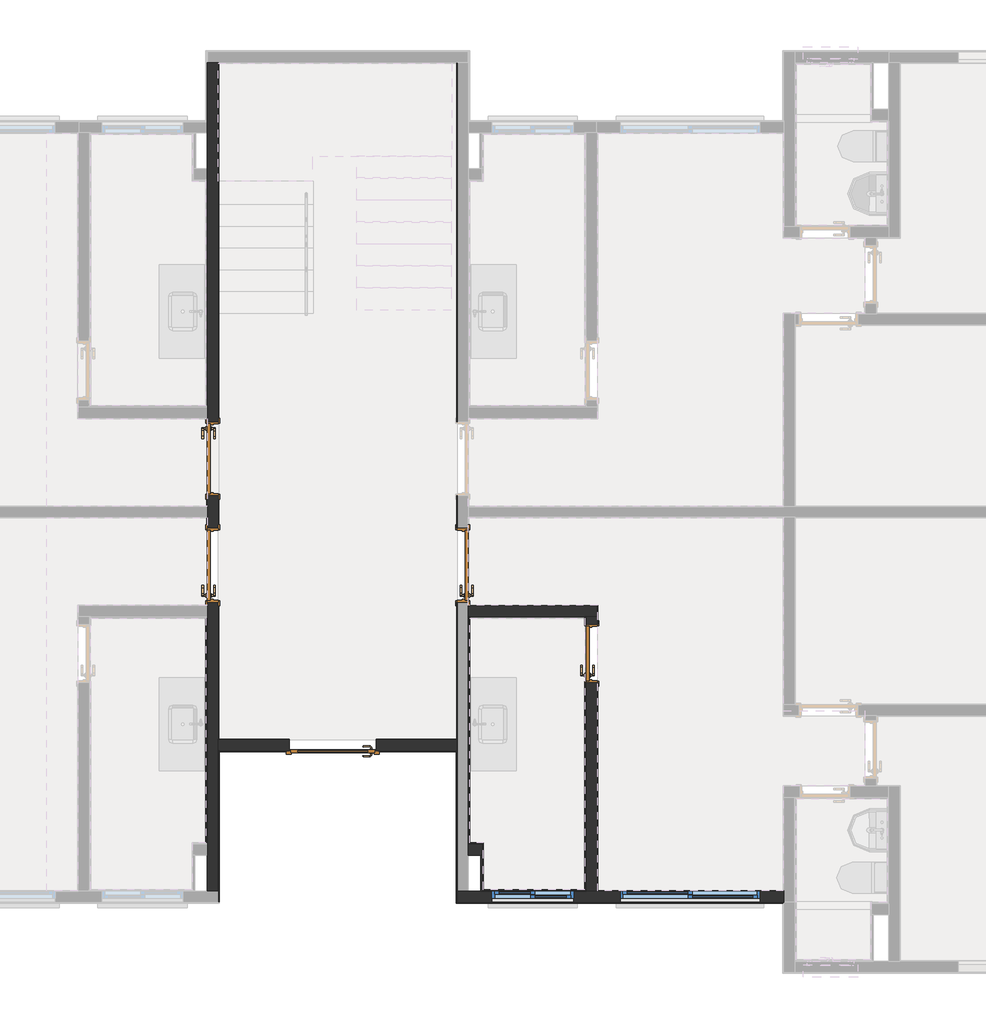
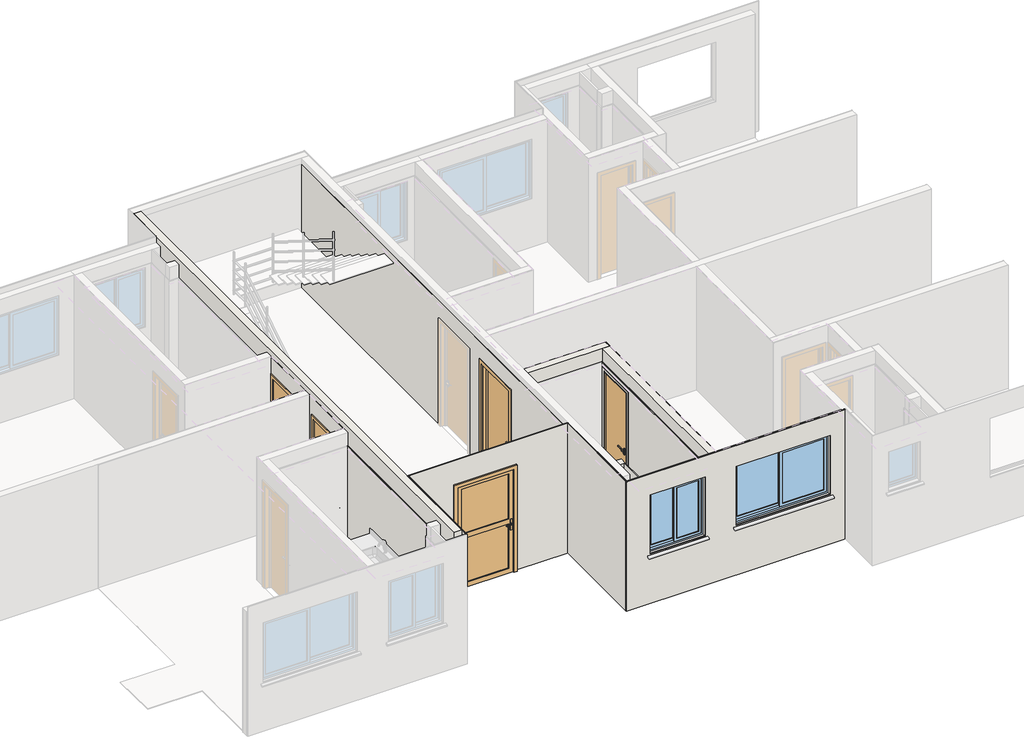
# One storey, part 3 of 9: 25 walls, 5 doors, 2 windows.
"""IFC4 building model written with IfcOpenShell, lengths in millimetres."""

from ifc_helpers import new_model, si_unit, frame, origin, place, context, project, spatial, polyline, outline, extrude, faceted_brep, transform, mapped, element, save
from components import porta_de_entrada_torre_110x210_d7ea5157, porta_de_madeira_interna_70_x_210_porta_de_madeira_interna_d0067c94, porta_de_madeira_interna_90x210_porta_de_madeira_interna_90_f8e7363e, porta_de_madeira_interna_90x210_porta_de_madeira_interna_90_f331fdd0, window_105x120_428ac20c, window_180x120_e659ab7e

model = new_model("IFC4")

# Units and contexts
model_context = context("Model", 3, world=origin())
ifc_project = project(units=[si_unit("LENGTHUNIT", "METRE", prefix="MILLI")], contexts=[model_context])

# Site, building, storey
site = spatial("IfcSite", under=ifc_project)
building = spatial("IfcBuilding", under=site)
storey = spatial("IfcBuildingStorey", under=building, Name="2º Pavimento", Elevation=2630.0)

# Doors
placement = place(None, origin())
porta_de_entrada_torre_110x210_shape = porta_de_entrada_torre_110x210_d7ea5157(model_context)
element("IfcDoor", 1, ObjectType="Porta de Entrada Torre : 110x210", at=placement, inside=storey, context=model_context, shape_type="MappedRepresentation", body=[
    mapped(porta_de_entrada_torre_110x210_shape, transform((10345.9990083, 3322.00443, 2630.0), x_axis=(-1.0, 0.0, 0.0), y_axis=(0.0, -1.0, 0.0), z_axis=(0.0, 0.0, 1.0))),
])
porta_de_madeira_interna_70_x_210_porta_de_madeira_interna_shape = porta_de_madeira_interna_70_x_210_porta_de_madeira_interna_d0067c94(model_context)
element("IfcDoor", 2, ObjectType="Porta de Madeira Interna 70 x 210 : Porta de Madeira Interna 70 x 210", at=placement, inside=storey, context=model_context, shape_type="MappedRepresentation", body=[
    mapped(porta_de_madeira_interna_70_x_210_porta_de_madeira_interna_shape, transform((13673.8210213, 4578.6603139, 2630.0), x_axis=(0.0, 1.0, 0.0), y_axis=(-1.0, 0.0, 0.0), z_axis=(0.0, 0.0, 1.0))),
])
porta_de_madeira_interna_90x210_porta_de_madeira_interna_90_shape = porta_de_madeira_interna_90x210_porta_de_madeira_interna_90_f8e7363e(model_context)
element("IfcDoor", 3, ObjectType="Porta de Madeira Interna 90x210 : Porta de Madeira Interna 90 x 210", at=placement, inside=storey, context=model_context, shape_type="MappedRepresentation", body=[
    mapped(porta_de_madeira_interna_90x210_porta_de_madeira_interna_90_shape, transform((8796.8213008, 7085.0103139, 2630.0), x_axis=(0.0, -1.0, 0.0), y_axis=(1.0, 0.0, 0.0), z_axis=(0.0, 0.0, 1.0))),
])
element("IfcDoor", 4, ObjectType="Porta de Madeira Interna 90x210 : Porta de Madeira Interna 90 x 210", at=placement, inside=storey, context=model_context, shape_type="MappedRepresentation", body=[
    mapped(porta_de_madeira_interna_90x210_porta_de_madeira_interna_90_shape, transform((12023.1734066, 5715.0103139, 2630.0), x_axis=(0.0, 1.0, 0.0), y_axis=(-1.0, 0.0, 0.0), z_axis=(0.0, 0.0, 1.0))),
])
porta_de_madeira_interna_90x210_porta_de_madeira_interna_90_2_shape = porta_de_madeira_interna_90x210_porta_de_madeira_interna_90_f331fdd0(model_context)
element("IfcDoor", 5, ObjectType="Porta de Madeira Interna 90x210 : Porta de Madeira Interna 90 x 210", at=placement, inside=storey, context=model_context, shape_type="MappedRepresentation", body=[
    mapped(porta_de_madeira_interna_90x210_porta_de_madeira_interna_90_2_shape, transform((8796.8213008, 5715.0103139, 2630.0), x_axis=(0.0, 1.0, 0.0), y_axis=(-1.0, 0.0, 0.0), z_axis=(0.0, 0.0, 1.0))),
])

# Walls
element("IfcWall", 6, ObjectType="Alvenaria Estrutural", at=placement, inside=storey, context=model_context, shape_type="Brep", body=[
    faceted_brep([(8869.9953936, 3330.00443, 5140.0), (8869.9953936, 3330.00443, 2630.0), (8886.0600094, 3330.00443, 2630.0), (9745.9990083, 3330.00443, 2630.0), (9785.9990083, 3330.00443, 2630.0), (9785.9990083, 3330.00443, 4740.0), (10905.9990083, 3330.00443, 4740.0), (10905.9990083, 3330.00443, 2630.0), (10945.9990083, 3330.00443, 2630.0), (11933.9956991, 3330.00443, 2630.0), (11944.9956991, 3330.00443, 2630.0), (11944.9956991, 3330.00443, 5140.0), (8869.9953936, 3470.00443, 2630.0), (8869.9953936, 3470.00443, 5140.0), (8875.9991022, 3470.00443, 5140.0), (11943.9984066, 3470.00443, 5140.0), (11944.9956991, 3470.00443, 5140.0), (11944.9956991, 3470.00443, 2630.0), (11943.9984066, 3470.00443, 2630.0), (10905.9990083, 3470.00443, 2630.0), (10905.9990083, 3470.00443, 4740.0), (9785.9990083, 3470.00443, 4740.0), (9785.9990083, 3470.00443, 2630.0), (8875.9991022, 3470.00443, 2630.0)], [[[0, 1, 2, 3, 4, 5, 6, 7, 8, 9, 10, 11]], [[12, 13, 14, 15, 16, 17, 18, 19, 20, 21, 22, 23]], [[2, 1, 12, 23, 22, 4, 3]], [[1, 0, 13, 12]], [[0, 11, 16, 15, 14, 13]], [[6, 5, 21, 20]], [[7, 6, 20, 19]], [[5, 4, 22, 21]], [[8, 7, 19, 18, 17, 10, 9]], [[11, 10, 17, 16]]]),
])
element("IfcWall", 7, ObjectType="Alvenaria Estrutural", at=placement, inside=storey, context=model_context, shape_type="Brep", body=[
    faceted_brep([(8729.9963008, 12179.9995833, 2630.0), (8729.9963008, 12179.9995833, 2640.0), (8729.9963008, 12179.9995833, 5150.0), (8729.9963008, 12179.9995833, 5260.0), (8869.9963008, 12179.9995833, 5260.0), (8869.9963008, 12179.9995833, 5150.0), (8869.9963008, 12179.9995833, 5140.0), (8869.9963008, 12179.9995833, 2640.0), (8869.9963008, 12179.9995833, 2630.0), (8729.9963008, 11436.0223004, 2630.0), (8869.9963008, 7560.0103139, 2630.0), (8729.9963008, 7560.0103139, 2630.0), (8729.9963008, 7606.3603139, 2630.0), (8729.9963008, 7746.3603139, 2630.0), (8729.9963008, 7766.3603139, 2630.0), (8729.9963008, 10655.0073729, 2630.0), (8729.9963008, 10675.0073729, 2630.0), (8729.9963008, 10815.0073729, 2630.0), (8729.9963008, 11420.0223004, 2630.0), (8729.9963008, 7560.0103139, 2640.0), (8869.9963008, 7560.0103139, 2640.0), (8869.9963008, 7560.0103139, 4755.0), (8729.9963008, 7560.0103139, 4755.0), (8729.9963008, 6610.0103139, 2630.0), (8729.9963008, 6610.0103139, 2640.0), (8729.9963008, 6610.0103139, 4755.0), (8869.9963008, 6610.0103139, 4755.0), (8869.9963008, 6610.0103139, 2640.0), (8869.9963008, 6610.0103139, 2630.0), (8729.9963008, 6476.0103139, 2630.0), (8869.9963008, 6190.0103139, 2630.0), (8729.9963008, 6190.0103139, 2630.0), (8729.9963008, 6324.0103139, 2630.0), (8729.9963008, 6330.0103139, 2630.0), (8729.9963008, 6470.0103139, 2630.0), (8729.9963008, 6190.0103139, 2640.0), (8869.9963008, 6190.0103139, 2640.0), (8869.9963008, 6190.0103139, 4755.0), (8729.9963008, 6190.0103139, 4755.0), (8729.9963008, 5240.0103139, 2630.0), (8729.9963008, 5240.0103139, 2640.0), (8729.9963008, 5240.0103139, 4755.0), (8869.9963008, 5240.0103139, 4755.0), (8869.9963008, 5240.0103139, 2640.0), (8869.9963008, 5240.0103139, 2630.0), (8729.9963008, 5193.6603139, 2630.0), (8869.9963008, 3474.9995833, 2630.0), (8869.9963008, 3470.00443, 2630.0), (8869.9963008, 3330.00443, 2630.0), (8869.9963008, 1519.9983274, 2630.0), (8729.9963008, 1519.9983274, 2630.0), (8729.9963008, 1985.0132549, 2630.0), (8729.9963008, 2125.0132549, 2630.0), (8729.9963008, 2145.0132549, 2630.0), (8729.9963008, 5033.6603139, 2630.0), (8729.9963008, 5053.6603139, 2630.0), (8729.9963008, 1519.9983274, 2640.0), (8869.9963008, 1519.9983274, 2640.0), (8869.9963008, 1519.9983274, 5150.0), (8869.9963008, 1519.9983274, 5260.0), (8729.9963008, 1519.9983274, 5260.0), (8729.9963008, 1519.9983274, 5150.0), (8729.9963008, 11420.0223004, 5260.0), (8729.9963008, 11436.0223004, 5260.0)], [[[0, 1, 2, 3, 4, 5, 6, 7, 8]], [[9, 0, 8, 10, 11, 12, 13, 14, 15, 16, 17, 18]], [[19, 11, 10, 20, 21, 22]], [[23, 24, 25, 26, 27, 28]], [[29, 23, 28, 30, 31, 32, 33, 34]], [[35, 31, 30, 36, 37, 38]], [[39, 40, 41, 42, 43, 44]], [[45, 39, 44, 46, 47, 48, 49, 50, 51, 52, 53, 54, 55]], [[56, 50, 49, 57, 58, 59, 60, 61]], [[57, 49, 48, 47, 46, 44, 43, 42, 37, 36, 30, 28, 27, 26, 21, 20, 10, 8, 7, 6, 5, 4, 59, 58]], [[25, 22, 21, 26]], [[41, 38, 37, 42]], [[62, 60, 59, 4, 3, 63]], [[40, 39, 45, 55, 54, 53, 52, 51, 50, 56, 61, 60, 62, 63, 3, 2, 1, 0, 9, 18, 17, 16, 15, 14, 13, 12, 11, 19, 22, 25, 24, 23, 29, 34, 33, 32, 31, 35, 38, 41]]]),
])
element("IfcWall", 8, ObjectType="Alvenaria Estrutural", at=placement, inside=storey, context=model_context, shape_type="Brep", body=[
    faceted_brep([(16149.9956991, 1519.9983274, 2640.0), (16143.9956991, 1519.9983274, 2640.0), (11949.9956991, 1519.9983274, 2640.0), (11949.9956991, 1519.9983274, 5150.0), (16149.9956991, 1519.9983274, 5150.0), (16149.9956991, 1519.9983274, 5140.0), (12394.9954974, 1519.9983274, 4830.0), (12394.9954974, 1519.9983274, 3630.0), (13444.9954974, 1519.9983274, 3630.0), (13444.9954974, 1519.9983274, 4830.0), (14044.9954574, 1519.9983274, 4830.0), (14044.9954574, 1519.9983274, 3630.0), (15844.9954574, 1519.9983274, 3630.0), (15844.9954574, 1519.9983274, 4830.0), (11949.9956991, 1379.9983274, 2640.0), (16133.9960602, 1379.9983274, 2640.0), (16149.9956991, 1379.9983274, 2640.0), (16149.9956991, 1379.9983274, 5150.0), (11949.9956991, 1379.9983274, 5150.0), (12394.9954974, 1379.9983274, 3630.0), (12394.9954974, 1379.9983274, 4830.0), (13444.9954974, 1379.9983274, 4830.0), (13444.9954974, 1379.9983274, 3630.0), (13494.9954974, 1379.9983274, 3630.0), (13494.9954974, 1379.9983274, 3581.3083694), (12344.9954974, 1379.9983274, 3581.3083694), (12344.9954974, 1379.9983274, 3630.0), (15894.9954574, 1379.9983274, 3630.0), (15894.9954574, 1379.9983274, 3581.3083694), (13994.9954574, 1379.9983274, 3581.3083694), (13994.9954574, 1379.9983274, 3630.0), (14044.9954574, 1379.9983274, 3630.0), (14044.9954574, 1379.9983274, 4830.0), (15844.9954574, 1379.9983274, 4830.0), (15844.9954574, 1379.9983274, 3630.0), (16149.9956991, 1449.9983274, 2640.0), (12344.9954974, 1477.4983274, 3602.0326341), (12344.9954974, 1477.4983274, 3630.0), (13494.9954974, 1477.4983274, 3630.0), (13494.9954974, 1477.4983274, 3602.0326341), (13444.9954974, 1477.4983274, 3630.0), (12394.9954974, 1477.4983274, 3630.0), (15894.9954574, 1477.4983274, 3630.0), (15894.9954574, 1477.4983274, 3602.0326341), (13994.9954574, 1477.4983274, 3602.0326341), (13994.9954574, 1477.4983274, 3630.0), (15844.9954574, 1477.4983274, 3630.0), (14044.9954574, 1477.4983274, 3630.0)], [[[0, 1, 2, 3, 4, 5], [6, 7, 8, 9], [10, 11, 12, 13]], [[14, 15, 16, 17, 18], [19, 20, 21, 22, 23, 24, 25, 26], [27, 28, 29, 30, 31, 32, 33, 34]], [[1, 0, 35, 16, 15, 14, 2]], [[3, 2, 14, 18]], [[4, 3, 18, 17]], [[5, 4, 17, 16, 35, 0]], [[26, 25, 36, 37]], [[24, 23, 38, 39]], [[37, 36, 39, 38, 40, 41]], [[19, 26, 37, 41]], [[25, 24, 39, 36]], [[7, 6, 20, 19, 41]], [[6, 9, 21, 20]], [[9, 8, 40, 22, 21]], [[8, 7, 41, 40]], [[28, 27, 42, 43]], [[30, 29, 44, 45]], [[43, 42, 46, 47, 45, 44]], [[27, 34, 46, 42]], [[29, 28, 43, 44]], [[11, 10, 32, 31, 47]], [[10, 13, 33, 32]], [[13, 12, 46, 34, 33]], [[12, 11, 47, 46]], [[31, 30, 45, 47]], [[23, 22, 40, 38]]]),
])
element("IfcWall", 9, ObjectType="Alvenaria Estrutural", at=placement, inside=storey, context=model_context, shape_type="Brep", body=[
    faceted_brep([(12089.9984066, 1985.0132549, 2630.0), (12249.9983974, 1985.0132549, 2630.0), (12272.9983974, 1985.0132549, 2630.0), (12272.9983974, 1985.0132549, 5140.0), (12249.9983974, 1985.0132549, 5140.0), (12089.9984066, 1985.0132549, 5140.0), (12089.9984066, 2125.0132549, 2630.0), (12089.9984066, 2125.0132549, 4880.0), (12089.9984066, 2125.0132549, 5140.0), (12272.9983974, 2125.0132549, 5140.0), (12272.9983974, 2125.0132549, 2630.0), (12109.9984066, 2125.0132549, 2630.0)], [[[0, 1, 2, 3, 4, 5]], [[6, 7, 8, 9, 10, 11]], [[1, 0, 6, 11, 10, 2]], [[4, 3, 9, 8, 5]], [[3, 2, 10, 9]], [[0, 5, 8, 7, 6]]]),
])
element("IfcWall", 10, ObjectType="Alvenaria Estrutural", at=placement, inside=storey, context=model_context, shape_type="Brep", body=[
    faceted_brep([(12089.9984066, 5053.6603139, 2630.0), (12109.9984066, 5053.6603139, 2630.0), (13586.992975, 5053.6603139, 2630.0), (13606.9960213, 5053.6603139, 2630.0), (13746.9960213, 5053.6603139, 2630.0), (13746.9960213, 5053.6603139, 5140.0), (13606.9960213, 5053.6603139, 5140.0), (12089.9984066, 5053.6603139, 5140.0), (12089.9984066, 5053.6603139, 4880.0), (12089.9984066, 5193.6603139, 2630.0), (12089.9984066, 5193.6603139, 5140.0), (12095.9984066, 5193.6603139, 5140.0), (13746.9960213, 5193.6603139, 5140.0), (13746.9960213, 5193.6603139, 2630.0), (12095.9984066, 5193.6603139, 2630.0)], [[[0, 1, 2, 3, 4, 5, 6, 7, 8]], [[9, 10, 11, 12, 13, 14]], [[1, 0, 9, 14, 13, 4, 3, 2]], [[6, 5, 12, 11, 10, 7]], [[5, 4, 13, 12]], [[8, 7, 10, 9, 0]]]),
])
element("IfcWall", 11, ObjectType="Alvenaria Estrutural", at=placement, inside=storey, context=model_context, shape_type="Brep", body=[
    faceted_brep([(13746.9960213, 1519.9983274, 2630.0), (13746.9960213, 1519.9983274, 2640.0), (13746.9960213, 1519.9983274, 5140.0), (13606.9960213, 1519.9983274, 5140.0), (13606.9960213, 1519.9983274, 4880.0), (13606.9960213, 1519.9983274, 2640.0), (13606.9960213, 1519.9983274, 2630.0), (13746.9960213, 1525.9983274, 2630.0), (13606.9960213, 1539.9983274, 2630.0), (13606.9960213, 4203.6603139, 2630.0), (13746.9960213, 4203.6603139, 2630.0), (13746.9960213, 4203.6603139, 2640.0), (13606.9960213, 4203.6603139, 2640.0), (13606.9960213, 4203.6603139, 4755.0), (13746.9960213, 4203.6603139, 4755.0), (13746.9960213, 4953.6603139, 2630.0), (13746.9960213, 4953.6603139, 2640.0), (13746.9960213, 4953.6603139, 4755.0), (13606.9960213, 4953.6603139, 4755.0), (13606.9960213, 4953.6603139, 2640.0), (13606.9960213, 4953.6603139, 2630.0), (13746.9960213, 5053.6603139, 2630.0), (13606.9960213, 5033.6603139, 2630.0), (13606.9960213, 5053.6603139, 2630.0), (13746.9960213, 5053.6603139, 2640.0), (13606.9960213, 5053.6603139, 2640.0), (13606.9960213, 5053.6603139, 4880.0), (13606.9960213, 5053.6603139, 5140.0), (13746.9960213, 5053.6603139, 5140.0), (13746.9960213, 1525.9983274, 5140.0)], [[[0, 1, 2, 3, 4, 5, 6]], [[7, 0, 6, 8, 9, 10]], [[11, 10, 9, 12, 13, 14]], [[15, 16, 17, 18, 19, 20]], [[21, 15, 20, 22, 23]], [[24, 21, 23, 25, 26, 27, 28]], [[25, 23, 22, 20, 19, 18, 13, 12, 9, 8, 6, 5, 4, 3, 27, 26]], [[29, 28, 27, 3, 2]], [[17, 14, 13, 18]], [[16, 15, 21, 24, 28, 29, 2, 1, 0, 7, 10, 11, 14, 17]]]),
])
element("IfcWall", 12, ObjectType="Azulejo", at=placement, inside=storey, context=model_context, shape_type="SweptSolid", body=[
    extrude(outline(polyline([(8709.9963008, 2125.0132549), (8709.9963008, 5053.6603139), (8719.9963008, 5053.6603139), (8719.9963008, 2125.0132549), (8709.9963008, 2125.0132549)])), frame((0.0, 0.0, 2630.0), z_axis=(0.0, 0.0, 1.0), x_axis=(1.0, 0.0, 0.0)), (0.0, 0.0, 1.0), 2250.0),
    extrude(outline(polyline([(8729.9963008, 5053.6603139), (8729.9963008, 2125.0132549), (8719.9963008, 2125.0132549), (8719.9963008, 5053.6603139), (8729.9963008, 5053.6603139)])), frame((0.0, 0.0, 2630.0), z_axis=(0.0, 0.0, 1.0), x_axis=(1.0, 0.0, 0.0)), (0.0, 0.0, 1.0), 2250.0),
])
element("IfcWall", 13, ObjectType="Azulejo", at=placement, inside=storey, context=model_context, shape_type="Brep", body=[
    faceted_brep([(13586.992975, 1519.9983274, 2630.0), (13586.992975, 4203.6603139, 2630.0), (13596.992975, 4203.6603139, 2630.0), (13596.992975, 1519.9983274, 2630.0), (13596.992975, 1519.9983274, 2640.0), (13596.992975, 1519.9983274, 4880.0), (13586.992975, 1519.9983274, 4880.0), (13586.992975, 1519.9983274, 2640.0), (13586.992975, 5053.6603139, 2630.0), (13586.992975, 5053.6603139, 2640.0), (13586.992975, 5053.6603139, 4880.0), (13596.992975, 5053.6603139, 4880.0), (13596.992975, 5053.6603139, 2640.0), (13596.992975, 5053.6603139, 2630.0), (13596.992975, 4953.6603139, 2630.0), (13586.992975, 4953.6603139, 2630.0), (13586.992975, 4953.6603139, 2640.0), (13596.992975, 4953.6603139, 2640.0), (13596.992975, 4953.6603139, 4755.0), (13586.992975, 4953.6603139, 4755.0), (13586.992975, 4203.6603139, 2640.0), (13586.992975, 4203.6603139, 4755.0), (13596.992975, 4203.6603139, 4755.0), (13596.992975, 4203.6603139, 2640.0)], [[[0, 1, 2, 3]], [[0, 3, 4, 5, 6, 7]], [[8, 9, 10, 11, 12, 13]], [[14, 15, 8, 13]], [[16, 15, 14, 17, 18, 19]], [[2, 1, 20, 21, 22, 23]], [[3, 2, 23, 22, 18, 17, 14, 13, 12, 11, 5, 4]], [[10, 6, 5, 11]], [[21, 19, 18, 22]], [[1, 0, 7, 6, 10, 9, 8, 15, 16, 19, 21, 20]]]),
    faceted_brep([(13596.992975, 4203.6603139, 2630.0), (13596.992975, 1519.9983274, 2630.0), (13596.992975, 1519.9983274, 2640.0), (13596.992975, 1519.9983274, 4880.0), (13596.992975, 5053.6603139, 4880.0), (13596.992975, 5053.6603139, 2640.0), (13596.992975, 5053.6603139, 2630.0), (13596.992975, 4953.6603139, 2630.0), (13596.992975, 4953.6603139, 2640.0), (13596.992975, 4953.6603139, 4755.0), (13596.992975, 4203.6603139, 4755.0), (13596.992975, 4203.6603139, 2640.0), (13606.992975, 4203.6603139, 2630.0), (13606.992975, 1519.9983274, 2630.0), (13606.992975, 1519.9983274, 2640.0), (13606.992975, 1519.9983274, 4880.0), (13606.992975, 5053.6603139, 4880.0), (13606.992975, 5053.6603139, 2640.0), (13606.992975, 5053.6603139, 2630.0), (13606.992975, 4953.6603139, 2630.0), (13606.992975, 4953.6603139, 2640.0), (13606.992975, 4953.6603139, 4755.0), (13606.992975, 4203.6603139, 4755.0), (13606.992975, 4203.6603139, 2640.0)], [[[0, 1, 2, 3, 4, 5, 6, 7, 8, 9, 10, 11]], [[1, 0, 12, 13]], [[2, 1, 13, 14, 15, 3]], [[6, 5, 4, 16, 17, 18]], [[7, 6, 18, 19]], [[8, 7, 19, 20, 21, 9]], [[0, 11, 10, 22, 23, 12]], [[14, 13, 12, 23, 22, 21, 20, 19, 18, 17, 16, 15]], [[4, 3, 15, 16]], [[10, 9, 21, 22]]]),
])
element("IfcWall", 14, ObjectType="Azulejo", at=placement, inside=storey, context=model_context, shape_type="SweptSolid", body=[
    extrude(outline(polyline([(12109.9984066, 5053.6603139), (12109.9984066, 2125.0132549), (12099.9984066, 2125.0132549), (12099.9984066, 5053.6603139), (12109.9984066, 5053.6603139)])), frame((0.0, 0.0, 2630.0), z_axis=(0.0, 0.0, 1.0), x_axis=(1.0, 0.0, 0.0)), (0.0, 0.0, 1.0), 2250.0),
    extrude(outline(polyline([(12089.9984066, 2125.0132549), (12089.9984066, 5053.6603139), (12099.9984066, 5053.6603139), (12099.9984066, 2125.0132549), (12089.9984066, 2125.0132549)])), frame((0.0, 0.0, 2630.0), z_axis=(0.0, 0.0, 1.0), x_axis=(1.0, 0.0, 0.0)), (0.0, 0.0, 1.0), 2250.0),
])
element("IfcWall", 15, ObjectType="Azulejo", at=placement, inside=storey, context=model_context, shape_type="SolidModel", body=[
    extrude(outline(polyline([(12089.9984066, 2145.0132549), (12282.9983974, 2145.0132549), (12282.9983974, 2135.0132549), (12089.9984066, 2135.0132549), (12089.9984066, 2145.0132549)])), frame((0.0, 0.0, 2630.0), z_axis=(0.0, 0.0, 1.0), x_axis=(1.0, 0.0, 0.0)), (0.0, 0.0, 1.0), 2250.0),
    faceted_brep([(12272.9983974, 2135.0132549, 2630.0), (12089.9984066, 2135.0132549, 2630.0), (12089.9984066, 2135.0132549, 4880.0), (12272.9983974, 2135.0132549, 4880.0), (12272.9983974, 2125.0132549, 2630.0), (12272.9983974, 2125.0132549, 4880.0), (12262.9983974, 2125.0132549, 4880.0), (12089.9984066, 2125.0132549, 4880.0), (12089.9984066, 2125.0132549, 2630.0), (12262.9983974, 2125.0132549, 2630.0)], [[[0, 1, 2, 3]], [[4, 5, 6, 7, 8, 9]], [[9, 8, 1, 0, 4]], [[6, 5, 3, 2, 7]], [[8, 7, 2, 1]], [[5, 4, 0, 3]]]),
])
element("IfcWall", 16, ObjectType="Azulejo", at=placement, inside=storey, context=model_context, shape_type="SolidModel", body=[
    faceted_brep([(12282.9983974, 1539.9983274, 2630.0), (13606.9960213, 1539.9983274, 2630.0), (13606.9960213, 1529.9983274, 2630.0), (12272.9983974, 1529.9983274, 2630.0), (12272.9983974, 1539.9983274, 2630.0), (12282.9983974, 1539.9983274, 4880.0), (12272.9983974, 1539.9983274, 4880.0), (12272.9983974, 1529.9983274, 4880.0), (13606.9960213, 1529.9983274, 4880.0), (13606.9960213, 1539.9983274, 4880.0), (12394.9954974, 1539.9983274, 3630.0), (12394.9954974, 1539.9983274, 4830.0), (12394.9954974, 1529.9983274, 4830.0), (12394.9954974, 1529.9983274, 3630.0), (13444.9954974, 1539.9983274, 4830.0), (13444.9954974, 1529.9983274, 4830.0), (13444.9954974, 1539.9983274, 3630.0), (13444.9954974, 1529.9983274, 3630.0)], [[[0, 1, 2, 3, 4]], [[5, 6, 7, 8, 9]], [[10, 11, 12, 13]], [[11, 14, 15, 12]], [[14, 16, 17, 15]], [[16, 10, 13, 17]], [[1, 9, 8, 2]], [[6, 4, 3, 7]], [[3, 2, 8, 7], [13, 12, 15, 17]], [[1, 0, 4, 6, 5, 9], [10, 16, 14, 11]]]),
    extrude(outline(polyline([(2630.0, 13606.9960213), (4880.0, 13606.9960213), (4880.0, 12272.9983974), (2630.0, 12272.9983974), (2630.0, 13606.9960213)]), holes=[polyline([(3630.0, 12394.9954974), (4830.0, 12394.9954974), (4830.0, 13444.9954974), (3630.0, 13444.9954974), (3630.0, 12394.9954974)])]), frame((0.0, 1519.9983274, 0.0), z_axis=(0.0, 1.0, 0.0), x_axis=(0.0, 0.0, 1.0)), (0.0, 0.0, 1.0), 10.0),
])
element("IfcWall", 17, ObjectType="Azulejo", at=placement, inside=storey, context=model_context, shape_type="SweptSolid", body=[
    extrude(outline(polyline([(12282.9983974, 2135.0132549), (12282.9983974, 1985.0132549), (12272.9983974, 1985.0132549), (12272.9983974, 2135.0132549), (12282.9983974, 2135.0132549)])), frame((0.0, 0.0, 2630.0), z_axis=(0.0, 0.0, 1.0), x_axis=(1.0, 0.0, 0.0)), (0.0, 0.0, 1.0), 2250.0),
    extrude(outline(polyline([(12262.9983974, 1985.0132549), (12262.9983974, 2125.0132549), (12272.9983974, 2125.0132549), (12272.9983974, 1985.0132549), (12262.9983974, 1985.0132549)])), frame((0.0, 0.0, 2630.0), z_axis=(0.0, 0.0, 1.0), x_axis=(1.0, 0.0, 0.0)), (0.0, 0.0, 1.0), 2250.0),
])
element("IfcWall", 18, ObjectType="Azulejo - Shaft", at=placement, inside=storey, context=model_context, shape_type="SweptSolid", body=[
    extrude(outline(polyline([(12282.9983974, 1985.0132549), (12282.9983974, 1539.9983274), (12272.9983974, 1539.9983274), (12272.9983974, 1985.0132549), (12282.9983974, 1985.0132549)])), frame((0.0, 0.0, 2630.0), z_axis=(0.0, 0.0, 1.0), x_axis=(1.0, 0.0, 0.0)), (0.0, 0.0, 1.0), 2250.0),
])
element("IfcWall", 19, ObjectType="Gesso Liso + Pintura", at=placement, inside=storey, context=model_context, shape_type="SolidModel", body=[
    faceted_brep([(8723.9963008, 6190.0103139, 2630.0), (8723.9963008, 6330.0103139, 2630.0), (8724.9963008, 6330.0103139, 2630.0), (8724.9963008, 6190.0103139, 2630.0), (8724.9963008, 6330.0103139, 5140.0), (8723.9963008, 6330.0103139, 5140.0), (8723.9963008, 5199.6603139, 5140.0), (8723.9963008, 5198.6603139, 5140.0), (8724.9963008, 5198.6603139, 5140.0), (8724.9963008, 6190.0103139, 4755.0), (8723.9963008, 6190.0103139, 4755.0), (8724.9963008, 5240.0103139, 4755.0), (8723.9963008, 5240.0103139, 4755.0), (8724.9963008, 5240.0103139, 2630.0), (8723.9963008, 5240.0103139, 2630.0), (8724.9963008, 5198.6603139, 2630.0), (8723.9963008, 5198.6603139, 2630.0), (8723.9963008, 5199.6603139, 2630.0)], [[[0, 1, 2, 3]], [[4, 5, 6, 7, 8]], [[0, 3, 9, 10]], [[10, 9, 11, 12]], [[12, 11, 13, 14]], [[2, 1, 5, 4]], [[14, 13, 15, 16, 17]], [[3, 2, 4, 8, 15, 13, 11, 9]], [[1, 0, 10, 12, 14, 17, 16, 7, 6, 5]], [[8, 7, 16, 15]]]),
    extrude(outline(polyline([(6330.0103139, 2630.0), (6190.0103139, 2630.0), (6190.0103139, 4755.0), (5240.0103139, 4755.0), (5240.0103139, 2630.0), (5193.6603139, 2630.0), (5193.6603139, 5140.0), (6330.0103139, 5140.0), (6330.0103139, 2630.0)])), frame((8724.9963008, 0.0, 0.0), z_axis=(1.0, 0.0, 0.0), x_axis=(0.0, 1.0, 0.0)), (0.0, 0.0, 1.0), 5.0),
])
element("IfcWall", 20, ObjectType="Gesso Liso + Pintura", at=placement, inside=storey, context=model_context, shape_type="SolidModel", body=[
    faceted_brep([(8723.9963008, 6470.0103139, 2630.0), (8723.9963008, 6610.0103139, 2630.0), (8724.9963008, 6610.0103139, 2630.0), (8724.9963008, 6470.0103139, 2630.0), (8723.9963008, 7600.3603139, 5140.0), (8723.9963008, 6470.0103139, 5140.0), (8724.9963008, 6470.0103139, 5140.0), (8724.9963008, 7601.3603139, 5140.0), (8723.9963008, 7601.3603139, 5140.0), (8723.9963008, 6610.0103139, 4755.0), (8724.9963008, 6610.0103139, 4755.0), (8723.9963008, 7560.0103139, 4755.0), (8724.9963008, 7560.0103139, 4755.0), (8723.9963008, 7560.0103139, 2630.0), (8724.9963008, 7560.0103139, 2630.0), (8723.9963008, 7600.3603139, 2630.0), (8723.9963008, 7601.3603139, 2630.0), (8724.9963008, 7601.3603139, 2630.0)], [[[0, 1, 2, 3]], [[4, 5, 6, 7, 8]], [[2, 1, 9, 10]], [[10, 9, 11, 12]], [[12, 11, 13, 14]], [[0, 3, 6, 5]], [[14, 13, 15, 16, 17]], [[3, 2, 10, 12, 14, 17, 7, 6]], [[1, 0, 5, 4, 8, 16, 15, 13, 11, 9]], [[8, 7, 17, 16]]]),
    extrude(outline(polyline([(6610.0103139, 2630.0), (6470.0103139, 2630.0), (6470.0103139, 5140.0), (7606.3603139, 5140.0), (7606.3603139, 2630.0), (7560.0103139, 2630.0), (7560.0103139, 4755.0), (6610.0103139, 4755.0), (6610.0103139, 2630.0)])), frame((8724.9963008, 0.0, 0.0), z_axis=(1.0, 0.0, 0.0), x_axis=(0.0, 1.0, 0.0)), (0.0, 0.0, 1.0), 5.0),
])
element("IfcWall", 21, ObjectType="Gesso Liso + Pintura", at=placement, inside=storey, context=model_context, shape_type="Brep", body=[
    faceted_brep([(13751.9960213, 4203.6603139, 2630.0), (13752.9960213, 4203.6603139, 2630.0), (13752.9960213, 1519.9983274, 2630.0), (13751.9960213, 1519.9983274, 2630.0), (13752.9960213, 4203.6603139, 2640.0), (13751.9960213, 4203.6603139, 2640.0), (13751.9960213, 4203.6603139, 4755.0), (13752.9960213, 4203.6603139, 4755.0), (13751.9960213, 4953.6603139, 2630.0), (13752.9960213, 4953.6603139, 2630.0), (13752.9960213, 4953.6603139, 2640.0), (13752.9960213, 4953.6603139, 4755.0), (13751.9960213, 4953.6603139, 4755.0), (13751.9960213, 4953.6603139, 2640.0), (13752.9960213, 5198.6603139, 2630.0), (13751.9960213, 5198.6603139, 2630.0), (13752.9960213, 1519.9983274, 2640.0), (13752.9960213, 1519.9983274, 5140.0), (13751.9960213, 1519.9983274, 5140.0), (13751.9960213, 1519.9983274, 2640.0), (13752.9960213, 5198.6603139, 2640.0), (13752.9960213, 5198.6603139, 5140.0), (13751.9960213, 5198.6603139, 2640.0), (13751.9960213, 5198.6603139, 5140.0)], [[[0, 1, 2, 3]], [[4, 1, 0, 5, 6, 7]], [[8, 9, 10, 11, 12, 13]], [[14, 9, 8, 15]], [[2, 16, 17, 18, 19, 3]], [[1, 4, 7, 11, 10, 9, 14, 20, 21, 17, 16, 2]], [[20, 14, 15, 22, 23, 21]], [[11, 7, 6, 12]], [[17, 21, 23, 18]], [[5, 0, 3, 19, 18, 23, 22, 15, 8, 13, 12, 6]]]),
    faceted_brep([(13751.9960213, 4953.6603139, 2640.0), (13751.9960213, 4953.6603139, 2630.0), (13751.9960213, 5193.6603139, 2630.0), (13751.9960213, 5193.6603139, 2640.0), (13751.9960213, 5193.6603139, 5140.0), (13751.9960213, 1519.9983274, 5140.0), (13751.9960213, 1519.9983274, 2640.0), (13751.9960213, 1519.9983274, 2630.0), (13751.9960213, 4203.6603139, 2630.0), (13751.9960213, 4203.6603139, 2640.0), (13751.9960213, 4203.6603139, 4755.0), (13751.9960213, 4953.6603139, 4755.0), (13746.9960213, 1519.9983274, 2630.0), (13746.9960213, 4203.6603139, 2630.0), (13746.9960213, 4203.6603139, 2640.0), (13746.9960213, 4203.6603139, 4755.0), (13746.9960213, 4953.6603139, 4755.0), (13746.9960213, 4953.6603139, 2640.0), (13746.9960213, 4953.6603139, 2630.0), (13746.9960213, 5053.6603139, 2630.0), (13746.9960213, 5193.6603139, 2630.0), (13746.9960213, 5193.6603139, 2640.0), (13746.9960213, 5193.6603139, 5140.0), (13746.9960213, 1519.9983274, 5140.0), (13746.9960213, 1519.9983274, 2640.0), (13746.9960213, 5053.6603139, 5140.0)], [[[0, 1, 2, 3, 4, 5, 6, 7, 8, 9, 10, 11]], [[8, 7, 12, 13]], [[9, 8, 13, 14, 15, 10]], [[1, 0, 11, 16, 17, 18]], [[2, 1, 18, 19, 20]], [[3, 2, 20, 21, 22, 4]], [[7, 6, 5, 23, 24, 12]], [[21, 20, 19, 18, 17, 16, 15, 14, 13, 12, 24, 23, 25, 22]], [[11, 10, 15, 16]], [[5, 4, 22, 25, 23]]]),
])
element("IfcWall", 22, ObjectType="Gesso Liso + Pintura", at=placement, inside=storey, context=model_context, shape_type="SolidModel", body=[
    extrude(outline(polyline([(2630.0, 13746.9960213), (2630.0, 16149.9956991), (5140.0, 16149.9956991), (5140.0, 13746.9960213), (2630.0, 13746.9960213)]), holes=[polyline([(3630.0, 14044.9954574), (4830.0, 14044.9954574), (4830.0, 15844.9954574), (3630.0, 15844.9954574), (3630.0, 14044.9954574)])]), frame((0.0, 1524.9983274, 0.0), z_axis=(0.0, 1.0, 0.0), x_axis=(0.0, 0.0, 1.0)), (0.0, 0.0, 1.0), 1.0),
    faceted_brep([(16149.9956991, 1524.9983274, 2630.0), (13746.9960213, 1524.9983274, 2630.0), (13746.9960213, 1524.9983274, 5140.0), (16149.9956991, 1524.9983274, 5140.0), (14044.9954574, 1524.9983274, 4830.0), (14044.9954574, 1524.9983274, 3630.0), (15844.9954574, 1524.9983274, 3630.0), (15844.9954574, 1524.9983274, 4830.0), (13746.9960213, 1519.9983274, 2630.0), (16149.9956991, 1519.9983274, 2630.0), (16149.9956991, 1519.9983274, 2640.0), (16149.9956991, 1519.9983274, 5140.0), (13746.9960213, 1519.9983274, 5140.0), (14044.9954574, 1519.9983274, 3630.0), (14044.9954574, 1519.9983274, 4830.0), (15844.9954574, 1519.9983274, 4830.0), (15844.9954574, 1519.9983274, 3630.0)], [[[0, 1, 2, 3], [4, 5, 6, 7]], [[8, 9, 10, 11, 12], [13, 14, 15, 16]], [[9, 8, 1, 0]], [[12, 11, 3, 2]], [[14, 13, 5, 4]], [[15, 14, 4, 7]], [[16, 15, 7, 6]], [[13, 16, 6, 5]], [[8, 12, 2, 1]], [[10, 9, 0, 3, 11]]]),
])
element("IfcWall", 23, ObjectType="Gesso Liso + Pintura", at=placement, inside=storey, context=model_context, shape_type="SolidModel", body=[
    faceted_brep([(8875.9991022, 5240.0103139, 2630.0), (8875.9991022, 3470.00443, 2630.0), (8874.9991022, 3470.00443, 2630.0), (8874.9991022, 5240.0103139, 2630.0), (8874.9991022, 3470.00443, 5140.0), (8875.9991022, 3470.00443, 5140.0), (8875.9991022, 12173.9995833, 5140.0), (8875.9991022, 12174.9995833, 5140.0), (8874.9991022, 12174.9995833, 5140.0), (8875.9991022, 6610.0103139, 4755.0), (8875.9991022, 6610.0103139, 2630.0), (8874.9991022, 6610.0103139, 2630.0), (8874.9991022, 6610.0103139, 4755.0), (8874.9991022, 7560.0103139, 4755.0), (8875.9991022, 7560.0103139, 4755.0), (8874.9991022, 7560.0103139, 2630.0), (8875.9991022, 7560.0103139, 2630.0), (8875.9991022, 6190.0103139, 2630.0), (8875.9991022, 6190.0103139, 4755.0), (8874.9991022, 6190.0103139, 4755.0), (8874.9991022, 6190.0103139, 2630.0), (8875.9991022, 5240.0103139, 4755.0), (8874.9991022, 5240.0103139, 4755.0), (8874.9991022, 12174.9995833, 2630.0), (8875.9991022, 12174.9995833, 2630.0), (8875.9991022, 12173.9995833, 2630.0)], [[[0, 1, 2, 3]], [[4, 5, 6, 7, 8]], [[9, 10, 11, 12]], [[9, 12, 13, 14]], [[14, 13, 15, 16]], [[17, 18, 19, 20]], [[19, 18, 21, 22]], [[0, 3, 22, 21]], [[11, 10, 17, 20]], [[16, 15, 23, 24, 25]], [[3, 2, 4, 8, 23, 15, 13, 12, 11, 20, 19, 22]], [[1, 0, 21, 18, 17, 10, 9, 14, 16, 25, 24, 7, 6, 5]], [[8, 7, 24, 23]], [[2, 1, 5, 4]]]),
    extrude(outline(polyline([(3470.00443, 5140.0), (12179.9995833, 5140.0), (12179.9995833, 2630.0), (7560.0103139, 2630.0), (7560.0103139, 4755.0), (6610.0103139, 4755.0), (6610.0103139, 2630.0), (6190.0103139, 2630.0), (6190.0103139, 4755.0), (5240.0103139, 4755.0), (5240.0103139, 2630.0), (3470.00443, 2630.0), (3470.00443, 5140.0)])), frame((8869.9991022, 0.0, 0.0), z_axis=(1.0, 0.0, 0.0), x_axis=(0.0, 1.0, 0.0)), (0.0, 0.0, 1.0), 5.0),
])
element("IfcWall", 24, ObjectType="Gesso Liso + Pintura", at=placement, inside=storey, context=model_context, shape_type="SolidModel", body=[
    faceted_brep([(11943.9984066, 7560.0103139, 2630.0), (11943.9984066, 12173.9995833, 2630.0), (11944.9984066, 12173.9995833, 2630.0), (11944.9984066, 7560.0103139, 2630.0), (11943.9984066, 3473.9995833, 5140.0), (11944.9984066, 3473.9995833, 5140.0), (11944.9984066, 12173.9995833, 5140.0), (11943.9984066, 12173.9995833, 5140.0), (11943.9984066, 3474.9995833, 5140.0), (11943.9984066, 6610.0103139, 2630.0), (11943.9984066, 6610.0103139, 4755.0), (11944.9984066, 6610.0103139, 4755.0), (11944.9984066, 6610.0103139, 2630.0), (11943.9984066, 7560.0103139, 4755.0), (11944.9984066, 7560.0103139, 4755.0), (11943.9984066, 6190.0103139, 4755.0), (11943.9984066, 6190.0103139, 2630.0), (11944.9984066, 6190.0103139, 2630.0), (11944.9984066, 6190.0103139, 4755.0), (11943.9984066, 5240.0103139, 4755.0), (11944.9984066, 5240.0103139, 4755.0), (11943.9984066, 5240.0103139, 2630.0), (11944.9984066, 5240.0103139, 2630.0), (11943.9984066, 3474.9995833, 2630.0), (11944.9984066, 3473.9995833, 2630.0), (11943.9984066, 3473.9995833, 2630.0)], [[[0, 1, 2, 3]], [[4, 5, 6, 7, 8]], [[1, 7, 6, 2]], [[9, 10, 11, 12]], [[10, 13, 14, 11]], [[13, 0, 3, 14]], [[15, 16, 17, 18]], [[19, 15, 18, 20]], [[21, 19, 20, 22]], [[16, 9, 12, 17]], [[23, 21, 22, 24, 25]], [[3, 2, 6, 5, 24, 22, 20, 18, 17, 12, 11, 14]], [[4, 8, 7, 1, 0, 13, 10, 9, 16, 15, 19, 21, 23, 25]], [[4, 25, 24, 5]]]),
    extrude(outline(polyline([(12174.9995833, 2630.0), (7560.0103139, 2630.0), (7560.0103139, 4755.0), (6610.0103139, 4755.0), (6610.0103139, 2630.0), (6190.0103139, 2630.0), (6190.0103139, 4755.0), (5240.0103139, 4755.0), (5240.0103139, 2630.0), (3468.9995833, 2630.0), (3468.9995833, 5140.0), (12174.9995833, 5140.0), (12174.9995833, 2630.0)])), frame((11944.9984066, 0.0, 0.0), z_axis=(1.0, 0.0, 0.0), x_axis=(0.0, 1.0, 0.0)), (0.0, 0.0, 1.0), 5.0),
])
element("IfcWall", 25, ObjectType="Gesso Liso + Pintura", at=placement, inside=storey, context=model_context, shape_type="SweptSolid", body=[
    extrude(outline(polyline([(2630.0, 10905.9990083), (2630.0, 11943.9984066), (5140.0, 11943.9984066), (5140.0, 8869.9963008), (2630.0, 8869.9963008), (2630.0, 9785.9990083), (4740.0, 9785.9990083), (4740.0, 10905.9990083), (2630.0, 10905.9990083)])), frame((0.0, 3473.9995833, 0.0), z_axis=(0.0, 1.0, 0.0), x_axis=(0.0, 0.0, 1.0)), (0.0, 0.0, 1.0), 1.0),
    extrude(outline(polyline([(2630.0, 10905.9990083), (2630.0, 11944.9984066), (5140.0, 11944.9984066), (5140.0, 8869.9963008), (2630.0, 8869.9963008), (2630.0, 9785.9990083), (4740.0, 9785.9990083), (4740.0, 10905.9990083), (2630.0, 10905.9990083)])), frame((0.0, 3470.00443, 0.0), z_axis=(0.0, 1.0, 0.0), x_axis=(0.0, 0.0, 1.0)), (0.0, 0.0, 1.0), 3.9951533),
])
element("IfcWall", 26, ObjectType="Reboco + Pintura Externa", at=placement, inside=storey, context=model_context, shape_type="Brep", body=[
    faceted_brep([(8885.0600094, 1364.9983274, 2630.0), (8885.0600094, 1364.9983274, 5140.0), (8885.0600094, 1364.9983274, 5260.0), (8885.0600094, 3315.00443, 5260.0), (8885.0600094, 3315.00443, 5140.0), (8885.0600094, 3315.00443, 2630.0), (8886.0600094, 3314.00443, 2630.0), (8886.0600094, 1364.9983274, 2630.0), (8886.0600094, 3315.00443, 2630.0), (8886.0600094, 3315.00443, 5140.0), (8886.0600094, 3315.00443, 5260.0), (8886.0600094, 3314.00443, 5260.0), (8886.0600094, 1364.9983274, 5260.0), (8886.0600094, 1364.9983274, 5140.0)], [[[0, 1, 2, 3, 4, 5]], [[6, 7, 0, 5, 8]], [[7, 6, 8, 9, 10, 11, 12, 13]], [[7, 13, 12, 2, 1, 0]], [[5, 4, 3, 10, 9, 8]], [[3, 2, 12, 11, 10]]]),
    faceted_brep([(8875.0600094, 3330.00443, 2630.0), (8875.0600094, 1379.9983274, 2630.0), (8870.0600094, 1379.9983274, 2630.0), (8870.0600094, 3330.00443, 2630.0), (8875.0600094, 3330.00443, 5140.0), (8870.0600094, 3330.00443, 5140.0), (8870.0600094, 3330.00443, 5260.0), (8875.0600094, 3330.00443, 5260.0), (8875.0600094, 1379.9983274, 5140.0), (8875.0600094, 1379.9983274, 5260.0), (8870.0600094, 1379.9983274, 5260.0), (8870.0600094, 1379.9983274, 5140.0)], [[[0, 1, 2, 3]], [[4, 0, 3, 5, 6, 7]], [[1, 8, 9, 10, 11, 2]], [[1, 0, 4, 7, 9, 8]], [[3, 2, 11, 10, 6, 5]], [[9, 7, 6, 10]]]),
    faceted_brep([(8885.0600094, 1374.9983274, 2630.0), (8885.0600094, 3330.00443, 2630.0), (8885.0600094, 3330.00443, 5140.0), (8885.0600094, 3330.00443, 5260.0), (8885.0600094, 1374.9983274, 5260.0), (8885.0600094, 1374.9983274, 5140.0), (8875.0600094, 1374.9983274, 2630.0), (8875.0600094, 3330.00443, 2630.0), (8875.0600094, 3330.00443, 5140.0), (8875.0600094, 3330.00443, 5260.0), (8875.0600094, 1374.9983274, 5140.0), (8875.0600094, 1374.9983274, 5260.0)], [[[0, 1, 2, 3, 4, 5]], [[1, 0, 6, 7]], [[2, 1, 7, 8, 9, 3]], [[7, 6, 10, 11, 9, 8]], [[6, 0, 5, 4, 11, 10]], [[4, 3, 9, 11]]]),
])
element("IfcWall", 27, ObjectType="Reboco + Pintura Externa", at=placement, inside=storey, context=model_context, shape_type="SweptSolid", body=[
    extrude(outline(polyline([(5260.0, 11949.9984066), (5260.0, 8886.0600094), (2630.0, 8886.0600094), (2630.0, 9745.9990083), (4780.0, 9745.9990083), (4780.0, 10945.9990083), (2630.0, 10945.9990083), (2630.0, 11949.9984066), (5260.0, 11949.9984066)])), frame((0.0, 3314.00443, 0.0), z_axis=(0.0, 1.0, 0.0), x_axis=(0.0, 0.0, 1.0)), (0.0, 0.0, 1.0), 1.0),
    extrude(outline(polyline([(2630.0, 8885.0600094), (2630.0, 9745.9990083), (4780.0, 9745.9990083), (4780.0, 10945.9990083), (2630.0, 10945.9990083), (2630.0, 11949.9984066), (5260.0, 11949.9984066), (5260.0, 8885.0600094), (2630.0, 8885.0600094)])), frame((0.0, 3325.00443, 0.0), z_axis=(0.0, 1.0, 0.0), x_axis=(0.0, 0.0, 1.0)), (0.0, 0.0, 1.0), 5.0),
    extrude(outline(polyline([(2630.0, 8885.0600094), (2630.0, 9745.9990083), (4780.0, 9745.9990083), (4780.0, 10945.9990083), (2630.0, 10945.9990083), (2630.0, 11949.9984066), (5260.0, 11949.9984066), (5260.0, 8885.0600094), (2630.0, 8885.0600094)])), frame((0.0, 3315.00443, 0.0), z_axis=(0.0, 1.0, 0.0), x_axis=(0.0, 0.0, 1.0)), (0.0, 0.0, 1.0), 10.0),
])
element("IfcWall", 28, ObjectType="Reboco + Pintura Externa", at=placement, inside=storey, context=model_context, shape_type="SolidModel", body=[
    extrude(outline(polyline([(2630.0, 16133.9960602), (5260.0, 16133.9960602), (5260.0, 11933.9956991), (2630.0, 11933.9956991), (2630.0, 16133.9960602)]), holes=[polyline([(3630.0, 12394.9954974), (4830.0, 12394.9954974), (4830.0, 13444.9954974), (3630.0, 13444.9954974), (3630.0, 12394.9954974)]), polyline([(3630.0, 14044.9954574), (4830.0, 14044.9954574), (4830.0, 15844.9954574), (3630.0, 15844.9954574), (3630.0, 14044.9954574)])]), frame((0.0, 1363.9983274, 0.0), z_axis=(0.0, 1.0, 0.0), x_axis=(0.0, 0.0, 1.0)), (0.0, 0.0, 1.0), 1.0),
    faceted_brep([(11944.9956991, 1374.9983274, 2630.0), (16134.9960602, 1374.9983274, 2630.0), (16134.9960602, 1374.9983274, 5260.0), (11944.9956991, 1374.9983274, 5260.0), (14044.9954574, 1374.9983274, 3630.0), (14044.9954574, 1374.9983274, 4830.0), (15844.9954574, 1374.9983274, 4830.0), (15844.9954574, 1374.9983274, 3630.0), (12394.9954974, 1374.9983274, 3630.0), (12394.9954974, 1374.9983274, 4830.0), (13444.9954974, 1374.9983274, 4830.0), (13444.9954974, 1374.9983274, 3630.0), (11949.9956991, 1379.9983274, 2630.0), (16134.9960602, 1379.9983274, 2630.0), (11944.9956991, 1379.9983274, 2630.0), (11949.9956991, 1379.9983274, 5260.0), (11944.9956991, 1379.9983274, 5260.0), (16134.9960602, 1379.9983274, 5260.0), (12394.9954974, 1379.9983274, 3630.0), (12394.9954974, 1379.9983274, 4830.0), (13444.9954974, 1379.9983274, 4830.0), (13444.9954974, 1379.9983274, 3630.0), (14044.9954574, 1379.9983274, 3630.0), (14044.9954574, 1379.9983274, 4830.0), (15844.9954574, 1379.9983274, 4830.0), (15844.9954574, 1379.9983274, 3630.0)], [[[0, 1, 2, 3], [4, 5, 6, 7], [8, 9, 10, 11]], [[12, 13, 1, 0, 14]], [[15, 16, 3, 2, 17]], [[18, 19, 9, 8]], [[19, 20, 10, 9]], [[20, 21, 11, 10]], [[21, 18, 8, 11]], [[22, 23, 5, 4]], [[23, 24, 6, 5]], [[24, 25, 7, 6]], [[25, 22, 4, 7]], [[17, 13, 12, 14, 16, 15], [18, 21, 20, 19], [22, 25, 24, 23]], [[17, 2, 1, 13]], [[16, 14, 0, 3]]]),
    extrude(outline(polyline([(2630.0, 11934.9956991), (2630.0, 16134.9960602), (5260.0, 16134.9960602), (5260.0, 11934.9956991), (2630.0, 11934.9956991)]), holes=[polyline([(3630.0, 14044.9954574), (4830.0, 14044.9954574), (4830.0, 15844.9954574), (3630.0, 15844.9954574), (3630.0, 14044.9954574)]), polyline([(3630.0, 12394.9954974), (4830.0, 12394.9954974), (4830.0, 13444.9954974), (3630.0, 13444.9954974), (3630.0, 12394.9954974)])]), frame((0.0, 1364.9983274, 0.0), z_axis=(0.0, 1.0, 0.0), x_axis=(0.0, 0.0, 1.0)), (0.0, 0.0, 1.0), 10.0),
])
element("IfcWall", 29, ObjectType="Reboco + Pintura Externa", at=placement, inside=storey, context=model_context, shape_type="Brep", body=[
    faceted_brep([(11934.9956991, 3330.00443, 2630.0), (11934.9956991, 1364.9983274, 2630.0), (11933.9956991, 1364.9983274, 2630.0), (11933.9956991, 3330.00443, 2630.0), (11934.9956991, 3330.00443, 5140.0), (11933.9956991, 3330.00443, 5140.0), (11933.9956991, 3330.00443, 5260.0), (11934.9956991, 3330.00443, 5260.0), (11934.9956991, 1364.9983274, 5260.0), (11934.9956991, 1364.9983274, 5140.0), (11933.9956991, 1364.9983274, 5140.0), (11933.9956991, 1364.9983274, 5260.0)], [[[0, 1, 2, 3]], [[4, 0, 3, 5, 6, 7]], [[1, 0, 4, 7, 8, 9]], [[3, 2, 10, 11, 6, 5]], [[10, 2, 1, 9, 8, 11]], [[8, 7, 6, 11]]]),
    faceted_brep([(11949.9956991, 3470.00443, 5140.0), (11944.9956991, 3470.00443, 5140.0), (11944.9956991, 3330.00443, 5140.0), (11949.9956991, 3330.00443, 5140.0), (11944.9956991, 3470.00443, 2630.0), (11944.9956991, 1379.9983274, 2630.0), (11944.9956991, 1379.9983274, 5140.0), (11944.9956991, 1379.9983274, 5260.0), (11944.9956991, 3330.00443, 5260.0), (11949.9956991, 3470.00443, 2630.0), (11949.9956991, 1379.9983274, 2630.0), (11949.9956991, 1379.9983274, 5140.0), (11949.9956991, 1379.9983274, 5260.0), (11949.9956991, 3330.00443, 5260.0)], [[[0, 1, 2, 3]], [[4, 5, 6, 7, 8, 2, 1]], [[5, 4, 9, 10]], [[6, 5, 10, 11, 12, 7]], [[10, 9, 0, 3, 13, 12, 11]], [[0, 9, 4, 1]], [[2, 8, 13, 3]], [[8, 7, 12, 13]]]),
    faceted_brep([(11944.9956991, 1374.9983274, 2630.0), (11944.9956991, 3330.00443, 2630.0), (11944.9956991, 3330.00443, 5140.0), (11944.9956991, 3330.00443, 5260.0), (11944.9956991, 1374.9983274, 5260.0), (11944.9956991, 1374.9983274, 5140.0), (11934.9956991, 1374.9983274, 2630.0), (11934.9956991, 3330.00443, 2630.0), (11934.9956991, 3330.00443, 5140.0), (11934.9956991, 3330.00443, 5260.0), (11934.9956991, 1374.9983274, 5140.0), (11934.9956991, 1374.9983274, 5260.0)], [[[0, 1, 2, 3, 4, 5]], [[1, 0, 6, 7]], [[2, 1, 7, 8, 9, 3]], [[7, 6, 10, 11, 9, 8]], [[6, 0, 5, 4, 11, 10]], [[4, 3, 9, 11]]]),
])
element("IfcWall", 30, ObjectType="Shaft Drywall", at=placement, inside=storey, context=model_context, shape_type="Brep", body=[
    faceted_brep([(12249.9983974, 1985.0132549, 2630.0), (12249.9983974, 1519.9983274, 2630.0), (12249.9983974, 1519.9983274, 5140.0), (12249.9983974, 1985.0132549, 5140.0), (12272.9983974, 1985.0132549, 2630.0), (12272.9983974, 1985.0132549, 5140.0), (12272.9983974, 1519.9983274, 5140.0), (12272.9983974, 1519.9983274, 4880.0), (12272.9983974, 1519.9983274, 2630.0), (12272.9983974, 1539.9983274, 2630.0)], [[[0, 1, 2, 3]], [[4, 5, 6, 7, 8, 9]], [[1, 0, 4, 9, 8]], [[2, 1, 8, 7, 6]], [[3, 2, 6, 5]], [[0, 3, 5, 4]]]),
])

# Windows
window_105x120_shape = window_105x120_428ac20c(model_context)
element("IfcWindow", 31, ObjectType="Janela de correr - 2 Painéis : 105x120", at=placement, inside=storey, context=model_context, shape_type="MappedRepresentation", body=[
    mapped(window_105x120_shape, transform((12919.9954974, 1449.9983274, 2980.0), x_axis=(1.0, 0.0, 0.0), y_axis=(0.0, 1.0, 0.0), z_axis=(0.0, 0.0, 1.0))),
])
window_180x120_shape = window_180x120_e659ab7e(model_context)
element("IfcWindow", 32, ObjectType="Janela de correr - 2 Painéis : 180x120", at=placement, inside=storey, context=model_context, shape_type="MappedRepresentation", body=[
    mapped(window_180x120_shape, transform((14944.9954574, 1449.9983274, 2980.0), x_axis=(1.0, 0.0, 0.0), y_axis=(0.0, 1.0, 0.0), z_axis=(0.0, 0.0, 1.0))),
])

save(model, "model.ifc")
